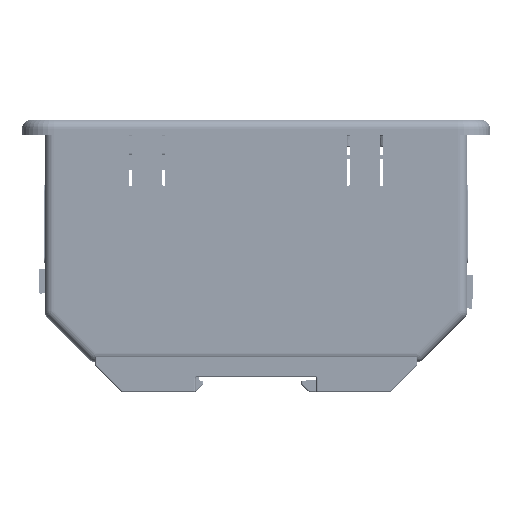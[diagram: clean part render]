
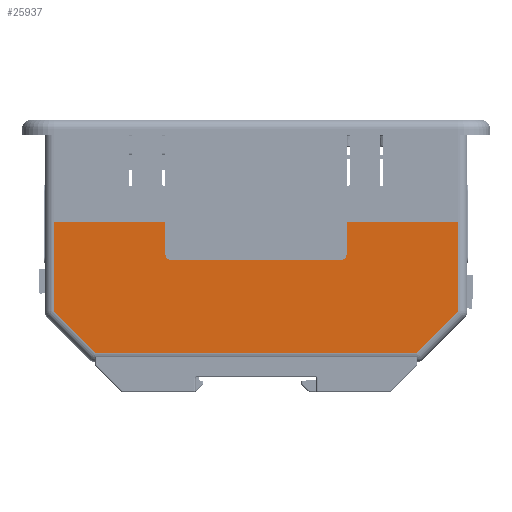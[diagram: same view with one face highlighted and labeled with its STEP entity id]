
A CAD part, left-side view. The second image highlights one B-rep face of the part: STEP entity #25937.
In plain terms, the highlighted planar face has unit normal (-1, 0, 0) as drawn and (1, 0, 0) by its records, which use the part's own axes.
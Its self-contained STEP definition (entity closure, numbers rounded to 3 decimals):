
#25937=ADVANCED_FACE('',(#237194),#237196,.F.);
#237194=FACE_BOUND('',#237195,.T.);
#237195=EDGE_LOOP('',(#409899,#409900,#409901,#409902,#409903,#409904));
#237196=PLANE('',#237197);
#237197=AXIS2_PLACEMENT_3D('',#237198,#237199,#237200);
#237198=CARTESIAN_POINT('',(70.,30.,-39.));
#237199=DIRECTION('',(-1.,0.,0.));
#237200=DIRECTION('',(0.,0.,1.));
#409899=ORIENTED_EDGE('',*,*,#540343,.T.);
#409900=ORIENTED_EDGE('',*,*,#540334,.T.);
#409901=ORIENTED_EDGE('',*,*,#540194,.F.);
#409902=ORIENTED_EDGE('',*,*,#540341,.T.);
#409903=ORIENTED_EDGE('',*,*,#540344,.T.);
#409904=ORIENTED_EDGE('',*,*,#540345,.T.);
#540194=EDGE_CURVE('',#608594,#608586,#608596,.T.);
#540334=EDGE_CURVE('',#608839,#608586,#608840,.T.);
#540341=EDGE_CURVE('',#608594,#608851,#608852,.T.);
#540343=EDGE_CURVE('',#608854,#608839,#608855,.T.);
#540344=EDGE_CURVE('',#608851,#608856,#608857,.T.);
#540345=EDGE_CURVE('',#608856,#608854,#608858,.T.);
#608586=VERTEX_POINT('',#739228);
#608594=VERTEX_POINT('',#739246);
#608596=LINE('',#739251,#739252);
#608839=VERTEX_POINT('',#739952);
#608840=LINE('',#739953,#739954);
#608851=VERTEX_POINT('',#739979);
#608852=LINE('',#739980,#739981);
#608854=VERTEX_POINT('',#739987);
#608855=LINE('',#739988,#739989);
#608856=VERTEX_POINT('',#739991);
#608857=LINE('',#739992,#739993);
#608858=LINE('',#739995,#739996);
#739228=CARTESIAN_POINT('',(70.,-16.2,67.));
#739246=CARTESIAN_POINT('',(70.,-16.2,-67.));
#739251=CARTESIAN_POINT('',(70.,-16.2,-67.));
#739252=VECTOR('',#739253,1.);
#739253=DIRECTION('',(0.,0.,1.));
#739952=CARTESIAN_POINT('',(70.,13.257,67.));
#739953=CARTESIAN_POINT('',(70.,13.257,67.));
#739954=VECTOR('',#739955,1.);
#739955=DIRECTION('',(0.,-1.,0.));
#739979=CARTESIAN_POINT('',(70.,13.257,-67.));
#739980=CARTESIAN_POINT('',(70.,-16.2,-67.));
#739981=VECTOR('',#739982,1.);
#739982=DIRECTION('',(0.,1.,0.));
#739987=CARTESIAN_POINT('',(70.,27.,53.257));
#739988=CARTESIAN_POINT('',(70.,27.,53.257));
#739989=VECTOR('',#739990,1.);
#739990=DIRECTION('',(0.,-0.707,0.707));
#739991=CARTESIAN_POINT('',(70.,27.,-53.257));
#739992=CARTESIAN_POINT('',(70.,13.257,-67.));
#739993=VECTOR('',#739994,1.);
#739994=DIRECTION('',(0.,0.707,0.707));
#739995=CARTESIAN_POINT('',(70.,27.,-53.257));
#739996=VECTOR('',#739997,1.);
#739997=DIRECTION('',(0.,0.,1.));
